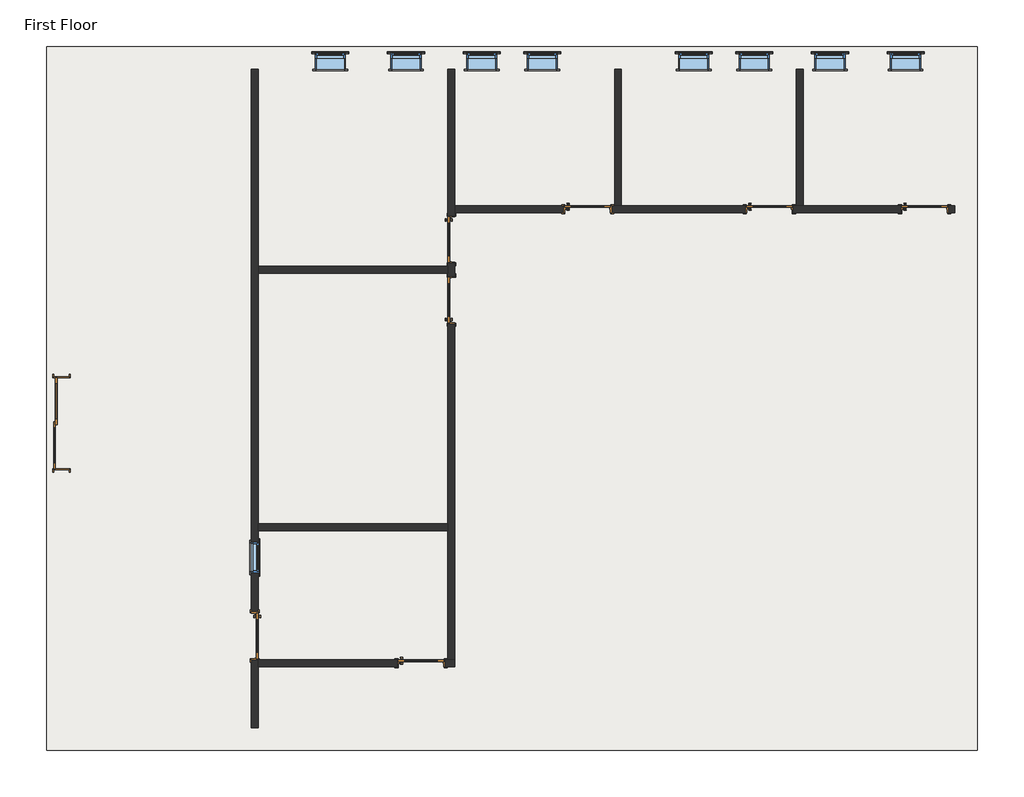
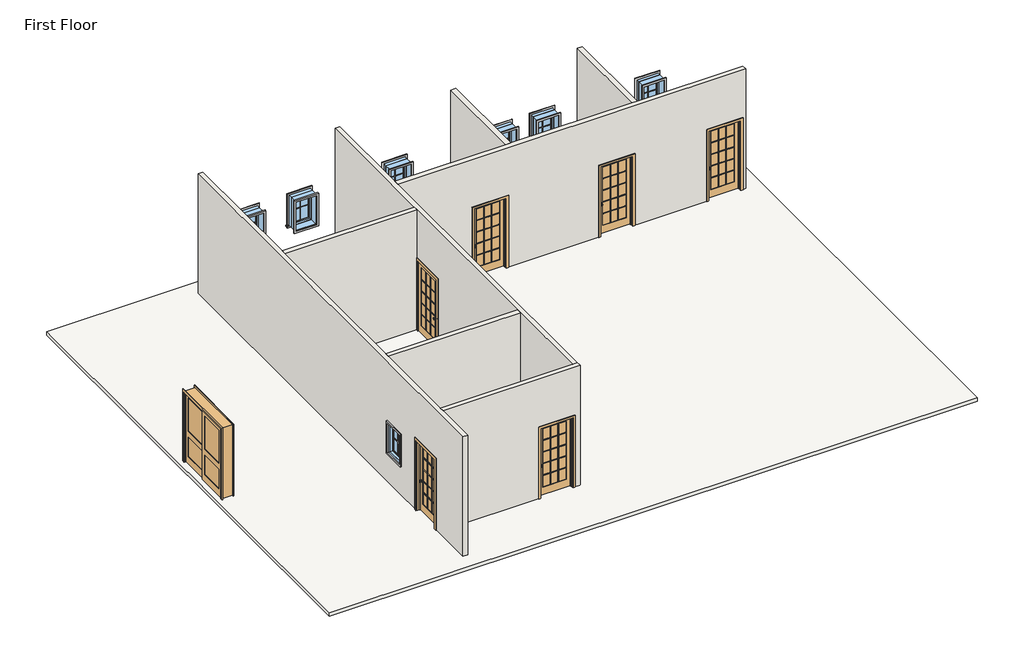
# One storey: 27 proxies, 9 windows, 8 doors, 8 walls, 1 slab.
"""IFC4 building model written with IfcOpenShell, lengths in millimetres."""

from ifc_helpers import new_model, si_unit, frame, origin, place, context, project, spatial, polyline, outline, extrude, faceted_brep, transform, mapped, element, save
from components import muntin_pattern_2x2_muntin_pattern_2x2_cf4092f1, muntin_pattern_2x2_muntin_pattern_2x2_49143b38, trim_window_exterior_flat_with_sill_a665a915, trim_window_exterior_flat_with_sill_4c72db77, trim_window_interior_flat_picture_frame_d485c387, trim_window_interior_flat_picture_frame_dfd23ff3, door_956c32c9, door_918c180d, door_79dd3e86, window_d7bc73cd, window_8e02f281, window_2fd3c40a

model = new_model("IFC4")

# Units and contexts
model_context = context("Model", 3, world=origin())
ifc_project = project(units=[si_unit("LENGTHUNIT", "METRE", prefix="MILLI")], contexts=[model_context])

# Site, building, storey
site = spatial("IfcSite", under=ifc_project)
building = spatial("IfcBuilding", under=site)
storey = spatial("IfcBuildingStorey", under=building, Name="First Floor", Elevation=3657.6)

# Proxies
placement = place(None, origin())
muntin_pattern_2x2_muntin_pattern_2x2_shape = muntin_pattern_2x2_muntin_pattern_2x2_cf4092f1(model_context)
element("IfcBuildingElementProxy", 1, Name="Muntin Pattern_2x2 : Muntin Pattern_2x2", ObjectType="Muntin Pattern_2x2 : Muntin Pattern_2x2", at=placement, inside=storey, context=model_context, shape_type="MappedRepresentation", body=[
    mapped(muntin_pattern_2x2_muntin_pattern_2x2_shape, transform((-14168.6597136, 1858.8705992, 4641.85), x_axis=(0.0, -1.0, 0.0), y_axis=(1.0, 0.0, 0.0), z_axis=(0.0, 0.0, 1.0))),
])
element("IfcBuildingElementProxy", 2, Name="Muntin Pattern_2x2 : Muntin Pattern_2x2", ObjectType="Muntin Pattern_2x2 : Muntin Pattern_2x2", at=placement, inside=storey, context=model_context, shape_type="MappedRepresentation", body=[
    mapped(muntin_pattern_2x2_muntin_pattern_2x2_shape, transform((-1122.5847136, 11991.8830992, 4641.85), x_axis=(1.0, 0.0, 0.0), y_axis=(0.0, 1.0, 0.0), z_axis=(0.0, 0.0, 1.0))),
])
element("IfcBuildingElementProxy", 3, Name="Muntin Pattern_2x2 : Muntin Pattern_2x2", ObjectType="Muntin Pattern_2x2 : Muntin Pattern_2x2", at=placement, inside=storey, context=model_context, shape_type="MappedRepresentation", body=[
    mapped(muntin_pattern_2x2_muntin_pattern_2x2_shape, transform((-2646.5847136, 11991.8830992, 4641.85), x_axis=(1.0, 0.0, 0.0), y_axis=(0.0, 1.0, 0.0), z_axis=(0.0, 0.0, 1.0))),
])
element("IfcBuildingElementProxy", 4, Name="Muntin Pattern_2x2 : Muntin Pattern_2x2", ObjectType="Muntin Pattern_2x2 : Muntin Pattern_2x2", at=placement, inside=storey, context=model_context, shape_type="MappedRepresentation", body=[
    mapped(muntin_pattern_2x2_muntin_pattern_2x2_shape, transform((-4170.5847136, 11991.8830992, 4641.85), x_axis=(1.0, 0.0, 0.0), y_axis=(0.0, 1.0, 0.0), z_axis=(0.0, 0.0, 1.0))),
])
element("IfcBuildingElementProxy", 5, Name="Muntin Pattern_2x2 : Muntin Pattern_2x2", ObjectType="Muntin Pattern_2x2 : Muntin Pattern_2x2", at=placement, inside=storey, context=model_context, shape_type="MappedRepresentation", body=[
    mapped(muntin_pattern_2x2_muntin_pattern_2x2_shape, transform((-5389.7847136, 11991.8830992, 4641.85), x_axis=(1.0, 0.0, 0.0), y_axis=(0.0, 1.0, 0.0), z_axis=(0.0, 0.0, 1.0))),
])
muntin_pattern_2x2_muntin_pattern_2x2_2_shape = muntin_pattern_2x2_muntin_pattern_2x2_49143b38(model_context)
element("IfcBuildingElementProxy", 6, Name="Muntin Pattern_2x2 : Muntin Pattern_2x2", ObjectType="Muntin Pattern_2x2 : Muntin Pattern_2x2", at=placement, inside=storey, context=model_context, shape_type="MappedRepresentation", body=[
    mapped(muntin_pattern_2x2_muntin_pattern_2x2_2_shape, transform((-12704.9847136, 11991.8830992, 4641.85), x_axis=(-1.0, 0.0, 0.0), y_axis=(0.0, -1.0, 0.0), z_axis=(0.0, 0.0, 1.0))),
])
element("IfcBuildingElementProxy", 7, Name="Muntin Pattern_2x2 : Muntin Pattern_2x2", ObjectType="Muntin Pattern_2x2 : Muntin Pattern_2x2", at=placement, inside=storey, context=model_context, shape_type="MappedRepresentation", body=[
    mapped(muntin_pattern_2x2_muntin_pattern_2x2_2_shape, transform((-11180.9847136, 11991.8830992, 4641.85), x_axis=(-1.0, 0.0, 0.0), y_axis=(0.0, -1.0, 0.0), z_axis=(0.0, 0.0, 1.0))),
])
element("IfcBuildingElementProxy", 8, Name="Muntin Pattern_2x2 : Muntin Pattern_2x2", ObjectType="Muntin Pattern_2x2 : Muntin Pattern_2x2", at=placement, inside=storey, context=model_context, shape_type="MappedRepresentation", body=[
    mapped(muntin_pattern_2x2_muntin_pattern_2x2_2_shape, transform((-9656.9847136, 11991.8830992, 4641.85), x_axis=(-1.0, 0.0, 0.0), y_axis=(0.0, -1.0, 0.0), z_axis=(0.0, 0.0, 1.0))),
])
element("IfcBuildingElementProxy", 9, Name="Muntin Pattern_2x2 : Muntin Pattern_2x2", ObjectType="Muntin Pattern_2x2 : Muntin Pattern_2x2", at=placement, inside=storey, context=model_context, shape_type="MappedRepresentation", body=[
    mapped(muntin_pattern_2x2_muntin_pattern_2x2_2_shape, transform((-8437.7847136, 11991.8830992, 4641.85), x_axis=(-1.0, 0.0, 0.0), y_axis=(0.0, -1.0, 0.0), z_axis=(0.0, 0.0, 1.0))),
])
trim_window_exterior_flat_with_sill_shape = trim_window_exterior_flat_with_sill_a665a915(model_context)
element("IfcBuildingElementProxy", 10, Name="Trim-Window-Exterior-Flat : with Sill", ObjectType="Trim-Window-Exterior-Flat : with Sill", at=placement, inside=storey, context=model_context, shape_type="MappedRepresentation", body=[
    mapped(trim_window_exterior_flat_with_sill_shape, transform((-14159.1347136, 1858.8705992, 5486.4), x_axis=(0.0, 1.0, 0.0), y_axis=(0.0, 0.0, 1.0), z_axis=(1.0, 0.0, 0.0))),
])
element("IfcBuildingElementProxy", 11, Name="Trim-Window-Exterior-Flat : with Sill", ObjectType="Trim-Window-Exterior-Flat : with Sill", at=placement, inside=storey, context=model_context, shape_type="MappedRepresentation", body=[
    mapped(trim_window_exterior_flat_with_sill_shape, transform((-1122.5847136, 12001.4080992, 5486.4), x_axis=(-1.0, 0.0, 0.0), y_axis=(0.0, 0.0, 1.0), z_axis=(0.0, 1.0, 0.0))),
])
element("IfcBuildingElementProxy", 12, Name="Trim-Window-Exterior-Flat : with Sill", ObjectType="Trim-Window-Exterior-Flat : with Sill", at=placement, inside=storey, context=model_context, shape_type="MappedRepresentation", body=[
    mapped(trim_window_exterior_flat_with_sill_shape, transform((-2646.5847136, 12001.4080992, 5486.4), x_axis=(-1.0, 0.0, 0.0), y_axis=(0.0, 0.0, 1.0), z_axis=(0.0, 1.0, 0.0))),
])
element("IfcBuildingElementProxy", 13, Name="Trim-Window-Exterior-Flat : with Sill", ObjectType="Trim-Window-Exterior-Flat : with Sill", at=placement, inside=storey, context=model_context, shape_type="MappedRepresentation", body=[
    mapped(trim_window_exterior_flat_with_sill_shape, transform((-4170.5847136, 12001.4080992, 5486.4), x_axis=(-1.0, 0.0, 0.0), y_axis=(0.0, 0.0, 1.0), z_axis=(0.0, 1.0, 0.0))),
])
element("IfcBuildingElementProxy", 14, Name="Trim-Window-Exterior-Flat : with Sill", ObjectType="Trim-Window-Exterior-Flat : with Sill", at=placement, inside=storey, context=model_context, shape_type="MappedRepresentation", body=[
    mapped(trim_window_exterior_flat_with_sill_shape, transform((-5389.7847136, 12001.4080992, 5486.4), x_axis=(-1.0, 0.0, 0.0), y_axis=(0.0, 0.0, 1.0), z_axis=(0.0, 1.0, 0.0))),
])
trim_window_exterior_flat_with_sill_2_shape = trim_window_exterior_flat_with_sill_4c72db77(model_context)
element("IfcBuildingElementProxy", 15, Name="Trim-Window-Exterior-Flat : with Sill", ObjectType="Trim-Window-Exterior-Flat : with Sill", at=placement, inside=storey, context=model_context, shape_type="MappedRepresentation", body=[
    mapped(trim_window_exterior_flat_with_sill_2_shape, transform((-12704.9847136, 12001.4080992, 5486.4), x_axis=(1.0, 0.0, 0.0), y_axis=(0.0, 0.0, -1.0), z_axis=(0.0, 1.0, 0.0))),
])
element("IfcBuildingElementProxy", 16, Name="Trim-Window-Exterior-Flat : with Sill", ObjectType="Trim-Window-Exterior-Flat : with Sill", at=placement, inside=storey, context=model_context, shape_type="MappedRepresentation", body=[
    mapped(trim_window_exterior_flat_with_sill_2_shape, transform((-11180.9847136, 12001.4080992, 5486.4), x_axis=(1.0, 0.0, 0.0), y_axis=(0.0, 0.0, -1.0), z_axis=(0.0, 1.0, 0.0))),
])
element("IfcBuildingElementProxy", 17, Name="Trim-Window-Exterior-Flat : with Sill", ObjectType="Trim-Window-Exterior-Flat : with Sill", at=placement, inside=storey, context=model_context, shape_type="MappedRepresentation", body=[
    mapped(trim_window_exterior_flat_with_sill_2_shape, transform((-9656.9847136, 12001.4080992, 5486.4), x_axis=(1.0, 0.0, 0.0), y_axis=(0.0, 0.0, -1.0), z_axis=(0.0, 1.0, 0.0))),
])
element("IfcBuildingElementProxy", 18, Name="Trim-Window-Exterior-Flat : with Sill", ObjectType="Trim-Window-Exterior-Flat : with Sill", at=placement, inside=storey, context=model_context, shape_type="MappedRepresentation", body=[
    mapped(trim_window_exterior_flat_with_sill_2_shape, transform((-8437.7847136, 12001.4080992, 5486.4), x_axis=(1.0, 0.0, 0.0), y_axis=(0.0, 0.0, -1.0), z_axis=(0.0, 1.0, 0.0))),
])
trim_window_interior_flat_picture_frame_shape = trim_window_interior_flat_picture_frame_d485c387(model_context)
element("IfcBuildingElementProxy", 19, Name="Trim-Window-Interior-Flat : Picture Frame", ObjectType="Trim-Window-Interior-Flat : Picture Frame", at=placement, inside=storey, context=model_context, shape_type="MappedRepresentation", body=[
    mapped(trim_window_interior_flat_picture_frame_shape, transform((-14298.8347136, 1858.8705992, 5486.4), x_axis=(0.0, -1.0, 0.0), y_axis=(0.0, 0.0, 1.0), z_axis=(-1.0, 0.0, 0.0))),
])
element("IfcBuildingElementProxy", 20, Name="Trim-Window-Interior-Flat : Picture Frame", ObjectType="Trim-Window-Interior-Flat : Picture Frame", at=placement, inside=storey, context=model_context, shape_type="MappedRepresentation", body=[
    mapped(trim_window_interior_flat_picture_frame_shape, transform((-1122.5847136, 11690.2580992, 5486.4), x_axis=(1.0, 0.0, 0.0), y_axis=(0.0, 0.0, 1.0), z_axis=(0.0, -1.0, 0.0))),
])
element("IfcBuildingElementProxy", 21, Name="Trim-Window-Interior-Flat : Picture Frame", ObjectType="Trim-Window-Interior-Flat : Picture Frame", at=placement, inside=storey, context=model_context, shape_type="MappedRepresentation", body=[
    mapped(trim_window_interior_flat_picture_frame_shape, transform((-2646.5847136, 11690.2580992, 5486.4), x_axis=(1.0, 0.0, 0.0), y_axis=(0.0, 0.0, 1.0), z_axis=(0.0, -1.0, 0.0))),
])
element("IfcBuildingElementProxy", 22, Name="Trim-Window-Interior-Flat : Picture Frame", ObjectType="Trim-Window-Interior-Flat : Picture Frame", at=placement, inside=storey, context=model_context, shape_type="MappedRepresentation", body=[
    mapped(trim_window_interior_flat_picture_frame_shape, transform((-4170.5847136, 11690.2580992, 5486.4), x_axis=(1.0, 0.0, 0.0), y_axis=(0.0, 0.0, 1.0), z_axis=(0.0, -1.0, 0.0))),
])
element("IfcBuildingElementProxy", 23, Name="Trim-Window-Interior-Flat : Picture Frame", ObjectType="Trim-Window-Interior-Flat : Picture Frame", at=placement, inside=storey, context=model_context, shape_type="MappedRepresentation", body=[
    mapped(trim_window_interior_flat_picture_frame_shape, transform((-5389.7847136, 11690.2580992, 5486.4), x_axis=(1.0, 0.0, 0.0), y_axis=(0.0, 0.0, 1.0), z_axis=(0.0, -1.0, 0.0))),
])
trim_window_interior_flat_picture_frame_2_shape = trim_window_interior_flat_picture_frame_dfd23ff3(model_context)
element("IfcBuildingElementProxy", 24, Name="Trim-Window-Interior-Flat : Picture Frame", ObjectType="Trim-Window-Interior-Flat : Picture Frame", at=placement, inside=storey, context=model_context, shape_type="MappedRepresentation", body=[
    mapped(trim_window_interior_flat_picture_frame_2_shape, transform((-12704.9847136, 11690.2580992, 5486.4), x_axis=(-1.0, 0.0, 0.0), y_axis=(0.0, 0.0, -1.0), z_axis=(0.0, -1.0, 0.0))),
])
element("IfcBuildingElementProxy", 25, Name="Trim-Window-Interior-Flat : Picture Frame", ObjectType="Trim-Window-Interior-Flat : Picture Frame", at=placement, inside=storey, context=model_context, shape_type="MappedRepresentation", body=[
    mapped(trim_window_interior_flat_picture_frame_2_shape, transform((-11180.9847136, 11690.2580992, 5486.4), x_axis=(-1.0, 0.0, 0.0), y_axis=(0.0, 0.0, -1.0), z_axis=(0.0, -1.0, 0.0))),
])
element("IfcBuildingElementProxy", 26, Name="Trim-Window-Interior-Flat : Picture Frame", ObjectType="Trim-Window-Interior-Flat : Picture Frame", at=placement, inside=storey, context=model_context, shape_type="MappedRepresentation", body=[
    mapped(trim_window_interior_flat_picture_frame_2_shape, transform((-9656.9847136, 11690.2580992, 5486.4), x_axis=(-1.0, 0.0, 0.0), y_axis=(0.0, 0.0, -1.0), z_axis=(0.0, -1.0, 0.0))),
])
element("IfcBuildingElementProxy", 27, Name="Trim-Window-Interior-Flat : Picture Frame", ObjectType="Trim-Window-Interior-Flat : Picture Frame", at=placement, inside=storey, context=model_context, shape_type="MappedRepresentation", body=[
    mapped(trim_window_interior_flat_picture_frame_2_shape, transform((-8437.7847136, 11690.2580992, 5486.4), x_axis=(-1.0, 0.0, 0.0), y_axis=(0.0, 0.0, -1.0), z_axis=(0.0, -1.0, 0.0))),
])

# Doors
door_shape = door_956c32c9(model_context)
element("IfcDoor", 28, ObjectType="Door-Interior-Double-Sliding-2_Panel-Wood : 72\" x 84\"", at=placement, inside=storey, context=model_context, shape_type="MappedRepresentation", body=[
    mapped(door_shape, transform((-18123.1222136, 4559.7577587, 3657.6), x_axis=(0.0, 1.0, 0.0), y_axis=(-1.0, 0.0, 0.0), z_axis=(0.0, 0.0, 1.0))),
])
door_2_shape = door_918c180d(model_context)
element("IfcDoor", 29, ObjectType="Door-Interior-Single-Full Glass-Wood : 36\" x 84\"", at=placement, inside=storey, context=model_context, shape_type="MappedRepresentation", body=[
    mapped(door_2_shape, transform((-14225.8097136, 277.7205992, 3657.6), x_axis=(0.0, -1.0, 0.0), y_axis=(1.0, 0.0, 0.0), z_axis=(0.0, 0.0, 1.0))),
])
element("IfcDoor", 30, ObjectType="Door-Interior-Single-Full Glass-Wood : 36\" x 84\"", at=placement, inside=storey, context=model_context, shape_type="MappedRepresentation", body=[
    mapped(door_2_shape, transform((-10269.7597136, 7040.4705992, 3657.6), x_axis=(0.0, 1.0, 0.0), y_axis=(-1.0, 0.0, 0.0), z_axis=(0.0, 0.0, 1.0))),
])
element("IfcDoor", 31, ObjectType="Door-Interior-Single-Full Glass-Wood : 36\" x 84\"", at=placement, inside=storey, context=model_context, shape_type="MappedRepresentation", body=[
    mapped(door_2_shape, transform((-7523.3847136, 8872.4455992, 3657.6), x_axis=(1.0, 0.0, 0.0), y_axis=(0.0, 1.0, 0.0), z_axis=(0.0, 0.0, 1.0))),
])
element("IfcDoor", 32, ObjectType="Door-Interior-Single-Full Glass-Wood : 36\" x 84\"", at=placement, inside=storey, context=model_context, shape_type="MappedRepresentation", body=[
    mapped(door_2_shape, transform((-3865.7847136, 8872.4455992, 3657.6), x_axis=(1.0, 0.0, 0.0), y_axis=(0.0, 1.0, 0.0), z_axis=(0.0, 0.0, 1.0))),
])
element("IfcDoor", 33, ObjectType="Door-Interior-Single-Full Glass-Wood : 36\" x 84\"", at=placement, inside=storey, context=model_context, shape_type="MappedRepresentation", body=[
    mapped(door_2_shape, transform((-739.9972136, 8872.4455992, 3657.6), x_axis=(1.0, 0.0, 0.0), y_axis=(0.0, 1.0, 0.0), z_axis=(0.0, 0.0, 1.0))),
])
element("IfcDoor", 34, ObjectType="Door-Interior-Single-Full Glass-Wood : 36\" x 84\"", at=placement, inside=storey, context=model_context, shape_type="MappedRepresentation", body=[
    mapped(door_2_shape, transform((-10876.1847136, -271.5544008, 3657.6), x_axis=(1.0, 0.0, 0.0), y_axis=(0.0, 1.0, 0.0), z_axis=(0.0, 0.0, 1.0))),
])
door_3_shape = door_79dd3e86(model_context)
element("IfcDoor", 35, ObjectType="Door-Interior-Single-Full Glass-Wood : 36\" x 84\"", at=placement, inside=storey, context=model_context, shape_type="MappedRepresentation", body=[
    mapped(door_3_shape, transform((-10269.7597136, 8259.6705992, 3657.6), x_axis=(0.0, -1.0, 0.0), y_axis=(1.0, 0.0, 0.0), z_axis=(0.0, 0.0, 1.0))),
])

# Slab
element("IfcSlab", 36, ObjectType="LW Concrete on Metal Deck", at=placement, inside=storey, context=model_context, shape_type="SweptSolid", body=[
    extrude(outline(polyline([(323.6277864, 12144.2830992), (323.6277864, -2025.7419008), (-18418.3972136, -2025.7419008), (-18418.3972136, 12144.2830992), (323.6277864, 12144.2830992)])), frame((0.0, 0.0, 3552.825), z_axis=(0.0, 0.0, 1.0), x_axis=(1.0, 0.0, 0.0)), (0.0, 0.0, 1.0), 104.775),
])

# Walls
element("IfcWall", 37, ObjectType="Interior - 5 1/2\" Partition (1-hr)", at=placement, inside=storey, context=model_context, shape_type="Brep", body=[
    faceted_brep([(-14298.8347136, -1571.7169008, 7315.2), (-14298.8347136, 11690.2580992, 7315.2), (-14298.8347136, 11690.2580992, 3657.6), (-14298.8347136, 760.3205992, 3657.6), (-14298.8347136, 760.3205992, 5816.6), (-14298.8347136, -204.8794008, 5816.6), (-14298.8347136, -204.8794008, 3657.6), (-14298.8347136, -1571.7169008, 3657.6), (-14298.8347136, 1554.0705992, 5486.4), (-14298.8347136, 1554.0705992, 4572.0), (-14298.8347136, 2163.6705992, 4572.0), (-14298.8347136, 2163.6705992, 5486.4), (-14159.1347136, 11690.2580992, 7315.2), (-14159.1347136, 7719.9205992, 7315.2), (-14159.1347136, 7580.2205992, 7315.2), (-14159.1347136, 2538.3205992, 7315.2), (-14159.1347136, 2398.6205992, 7315.2), (-14159.1347136, -204.8794008, 7315.2), (-14159.1347136, -344.5794008, 7315.2), (-14159.1347136, -1571.7169008, 7315.2), (-14159.1347136, -1571.7169008, 3657.6), (-14159.1347136, -344.5794008, 3657.6), (-14159.1347136, -204.8794008, 3657.6), (-14159.1347136, -204.8794008, 5816.6), (-14159.1347136, 760.3205992, 5816.6), (-14159.1347136, 760.3205992, 3657.6), (-14159.1347136, 2398.6205992, 3657.6), (-14159.1347136, 2538.3205992, 3657.6), (-14159.1347136, 7580.2205992, 3657.6), (-14159.1347136, 7719.9205992, 3657.6), (-14159.1347136, 11690.2580992, 3657.6), (-14159.1347136, 1554.0705992, 5486.4), (-14159.1347136, 2163.6705992, 5486.4), (-14159.1347136, 2163.6705992, 4572.0), (-14159.1347136, 1554.0705992, 4572.0)], [[[0, 1, 2, 3, 4, 5, 6, 7], [8, 9, 10, 11]], [[12, 13, 14, 15, 16, 17, 18, 19, 20, 21, 22, 23, 24, 25, 26, 27, 28, 29, 30], [31, 32, 33, 34]], [[2, 30, 29, 28, 27, 26, 25, 3]], [[20, 7, 6, 22, 21]], [[1, 0, 19, 18, 17, 16, 15, 14, 13, 12]], [[5, 23, 22, 6]], [[23, 5, 4, 24]], [[24, 4, 3, 25]], [[9, 8, 31, 34]], [[10, 9, 34, 33]], [[11, 10, 33, 32]], [[8, 11, 32, 31]], [[2, 1, 12, 30]], [[0, 7, 20, 19]]]),
])
element("IfcWall", 38, ObjectType="Interior - 5 1/2\" Partition (1-hr)", at=placement, inside=storey, context=model_context, shape_type="Brep", body=[
    faceted_brep([(-10196.7347136, -344.5794008, 7315.2), (-14159.1347136, -344.5794008, 7315.2), (-14159.1347136, -344.5794008, 3657.6), (-11358.7847136, -344.5794008, 3657.6), (-11358.7847136, -344.5794008, 5816.6), (-10393.5847136, -344.5794008, 5816.6), (-10393.5847136, -344.5794008, 3657.6), (-10196.7347136, -344.5794008, 3657.6), (-14159.1347136, -204.8794008, 7315.2), (-10336.4347136, -204.8794008, 7315.2), (-10196.7347136, -204.8794008, 7315.2), (-10196.7347136, -204.8794008, 3657.6), (-10336.4347136, -204.8794008, 3657.6), (-10393.5847136, -204.8794008, 3657.6), (-10393.5847136, -204.8794008, 5816.6), (-11358.7847136, -204.8794008, 5816.6), (-11358.7847136, -204.8794008, 3657.6), (-14159.1347136, -204.8794008, 3657.6), (-14159.1347136, -204.8794008, 5816.6)], [[[0, 1, 2, 3, 4, 5, 6, 7]], [[8, 9, 10, 11, 12, 13, 14, 15, 16, 17, 18]], [[2, 17, 16, 3]], [[11, 7, 6, 13, 12]], [[1, 0, 10, 9, 8]], [[2, 1, 8, 18, 17]], [[0, 7, 11, 10]], [[5, 14, 13, 6]], [[14, 5, 4, 15]], [[15, 4, 3, 16]]]),
])
element("IfcWall", 39, ObjectType="Interior - 5 1/2\" Partition (1-hr)", at=placement, inside=storey, context=model_context, shape_type="Brep", body=[
    faceted_brep([(-10196.7347136, 11690.2580992, 7315.2), (-10196.7347136, 8939.1205992, 7315.2), (-10196.7347136, 8799.4205992, 7315.2), (-10196.7347136, -204.8794008, 7315.2), (-10196.7347136, -204.8794008, 3657.6), (-10196.7347136, 6557.8705992, 3657.6), (-10196.7347136, 6557.8705992, 5816.6), (-10196.7347136, 7523.0705992, 5816.6), (-10196.7347136, 7523.0705992, 3657.6), (-10196.7347136, 7777.0705992, 3657.6), (-10196.7347136, 7777.0705992, 5816.6), (-10196.7347136, 8742.2705992, 5816.6), (-10196.7347136, 8742.2705992, 3657.6), (-10196.7347136, 8799.4205992, 3657.6), (-10196.7347136, 8939.1205992, 3657.6), (-10196.7347136, 11690.2580992, 3657.6), (-10336.4347136, -204.8794008, 7315.2), (-10336.4347136, 2398.6205992, 7315.2), (-10336.4347136, 2538.3205992, 7315.2), (-10336.4347136, 7580.2205992, 7315.2), (-10336.4347136, 7719.9205992, 7315.2), (-10336.4347136, 11690.2580992, 7315.2), (-10336.4347136, 11690.2580992, 3657.6), (-10336.4347136, 8742.2705992, 3657.6), (-10336.4347136, 8742.2705992, 5816.6), (-10336.4347136, 7777.0705992, 5816.6), (-10336.4347136, 7777.0705992, 3657.6), (-10336.4347136, 7719.9205992, 3657.6), (-10336.4347136, 7580.2205992, 3657.6), (-10336.4347136, 7523.0705992, 3657.6), (-10336.4347136, 7523.0705992, 5816.6), (-10336.4347136, 6557.8705992, 5816.6), (-10336.4347136, 6557.8705992, 3657.6), (-10336.4347136, 2538.3205992, 3657.6), (-10336.4347136, 2398.6205992, 3657.6), (-10336.4347136, -204.8794008, 3657.6)], [[[0, 1, 2, 3, 4, 5, 6, 7, 8, 9, 10, 11, 12, 13, 14, 15]], [[16, 17, 18, 19, 20, 21, 22, 23, 24, 25, 26, 27, 28, 29, 30, 31, 32, 33, 34, 35]], [[4, 35, 34, 33, 32, 5]], [[8, 29, 28, 27, 26, 9]], [[22, 15, 14, 13, 12, 23]], [[3, 2, 1, 0, 21, 20, 19, 18, 17, 16]], [[4, 3, 16, 35]], [[7, 30, 29, 8]], [[30, 7, 6, 31]], [[31, 6, 5, 32]], [[25, 10, 9, 26]], [[10, 25, 24, 11]], [[11, 24, 23, 12]], [[0, 15, 22, 21]]]),
])
element("IfcWall", 40, ObjectType="Interior - 5 1/2\" Partition (1-hr)", at=placement, inside=storey, context=model_context, shape_type="Brep", body=[
    faceted_brep([(-10196.7347136, 8939.1205992, 7315.2), (-6983.6347136, 8939.1205992, 7315.2), (-6843.9347136, 8939.1205992, 7315.2), (-3326.0347136, 8939.1205992, 7315.2), (-3186.3347136, 8939.1205992, 7315.2), (-130.3972136, 8939.1205992, 7315.2), (-130.3972136, 8939.1205992, 3657.6), (-257.3972136, 8939.1205992, 3657.6), (-257.3972136, 8939.1205992, 5816.6), (-1222.5972136, 8939.1205992, 5816.6), (-1222.5972136, 8939.1205992, 3657.6), (-3186.3347136, 8939.1205992, 3657.6), (-3326.0347136, 8939.1205992, 3657.6), (-3383.1847136, 8939.1205992, 3657.6), (-3383.1847136, 8939.1205992, 5816.6), (-4348.3847136, 8939.1205992, 5816.6), (-4348.3847136, 8939.1205992, 3657.6), (-6843.9347136, 8939.1205992, 3657.6), (-6983.6347136, 8939.1205992, 3657.6), (-7040.7847136, 8939.1205992, 3657.6), (-7040.7847136, 8939.1205992, 5816.6), (-8005.9847136, 8939.1205992, 5816.6), (-8005.9847136, 8939.1205992, 3657.6), (-10196.7347136, 8939.1205992, 3657.6), (-130.3972136, 8799.4205992, 7315.2), (-10196.7347136, 8799.4205992, 7315.2), (-10196.7347136, 8799.4205992, 3657.6), (-8005.9847136, 8799.4205992, 3657.6), (-8005.9847136, 8799.4205992, 5816.6), (-7040.7847136, 8799.4205992, 5816.6), (-7040.7847136, 8799.4205992, 3657.6), (-4348.3847136, 8799.4205992, 3657.6), (-4348.3847136, 8799.4205992, 5816.6), (-3383.1847136, 8799.4205992, 5816.6), (-3383.1847136, 8799.4205992, 3657.6), (-1222.5972136, 8799.4205992, 3657.6), (-1222.5972136, 8799.4205992, 5816.6), (-257.3972136, 8799.4205992, 5816.6), (-257.3972136, 8799.4205992, 3657.6), (-130.3972136, 8799.4205992, 3657.6)], [[[0, 1, 2, 3, 4, 5, 6, 7, 8, 9, 10, 11, 12, 13, 14, 15, 16, 17, 18, 19, 20, 21, 22, 23]], [[24, 25, 26, 27, 28, 29, 30, 31, 32, 33, 34, 35, 36, 37, 38, 39]], [[26, 23, 22, 27]], [[30, 19, 18, 17, 16, 31]], [[34, 13, 12, 11, 10, 35]], [[6, 39, 38, 7]], [[5, 4, 3, 2, 1, 0, 25, 24]], [[0, 23, 26, 25]], [[29, 20, 19, 30]], [[20, 29, 28, 21]], [[21, 28, 27, 22]], [[33, 14, 13, 34]], [[14, 33, 32, 15]], [[15, 32, 31, 16]], [[37, 8, 7, 38]], [[8, 37, 36, 9]], [[9, 36, 35, 10]], [[6, 5, 24, 39]]]),
])
element("IfcWall", 41, ObjectType="Interior - 5 1/2\" Partition (1-hr)", at=placement, inside=storey, context=model_context, shape_type="SweptSolid", body=[
    extrude(outline(polyline([(-10336.4347136, 7580.2205992), (-14159.1347136, 7580.2205992), (-14159.1347136, 7719.9205992), (-10336.4347136, 7719.9205992), (-10336.4347136, 7580.2205992)])), frame((0.0, 0.0, 3657.6), z_axis=(0.0, 0.0, 1.0), x_axis=(1.0, 0.0, 0.0)), (0.0, 0.0, 1.0), 3657.6),
])
element("IfcWall", 42, ObjectType="Interior - 5 1/2\" Partition (1-hr)", at=placement, inside=storey, context=model_context, shape_type="SweptSolid", body=[
    extrude(outline(polyline([(-10336.4347136, 2398.6205992), (-14159.1347136, 2398.6205992), (-14159.1347136, 2538.3205992), (-10336.4347136, 2538.3205992), (-10336.4347136, 2398.6205992)])), frame((0.0, 0.0, 3657.6), z_axis=(0.0, 0.0, 1.0), x_axis=(1.0, 0.0, 0.0)), (0.0, 0.0, 1.0), 3657.6),
])
element("IfcWall", 43, ObjectType="Interior - 5 1/2\" Partition (1-hr)", at=placement, inside=storey, context=model_context, shape_type="SweptSolid", body=[
    extrude(outline(polyline([(-3326.0347136, 8939.1205992), (-3326.0347136, 11690.2580992), (-3186.3347136, 11690.2580992), (-3186.3347136, 8939.1205992), (-3326.0347136, 8939.1205992)])), frame((0.0, 0.0, 3657.6), z_axis=(0.0, 0.0, 1.0), x_axis=(1.0, 0.0, 0.0)), (0.0, 0.0, 1.0), 3657.6),
])
element("IfcWall", 44, ObjectType="Interior - 5 1/2\" Partition (1-hr)", at=placement, inside=storey, context=model_context, shape_type="SweptSolid", body=[
    extrude(outline(polyline([(-6983.6347136, 8939.1205992), (-6983.6347136, 11690.2580992), (-6843.9347136, 11690.2580992), (-6843.9347136, 8939.1205992), (-6983.6347136, 8939.1205992)])), frame((0.0, 0.0, 3657.6), z_axis=(0.0, 0.0, 1.0), x_axis=(1.0, 0.0, 0.0)), (0.0, 0.0, 1.0), 3657.6),
])

# Windows
window_shape = window_d7bc73cd(model_context)
element("IfcWindow", 45, ObjectType="Window-Awning-Single : 24\" x 36\"", at=placement, inside=storey, context=model_context, shape_type="MappedRepresentation", body=[
    mapped(window_shape, transform((-14228.9847136, 1858.8705992, 3657.6), x_axis=(0.0, -1.0, 0.0), y_axis=(1.0, 0.0, 0.0), z_axis=(0.0, 0.0, 1.0))),
])
window_2_shape = window_8e02f281(model_context)
element("IfcWindow", 46, ObjectType="Window-Awning-Single : 24\" x 36\"", at=placement, inside=storey, context=model_context, shape_type="MappedRepresentation", body=[
    mapped(window_2_shape, transform((-12704.9847136, 11845.8330992, 3657.6), x_axis=(-1.0, 0.0, 0.0), y_axis=(0.0, -1.0, 0.0), z_axis=(0.0, 0.0, 1.0))),
])
element("IfcWindow", 47, ObjectType="Window-Awning-Single : 24\" x 36\"", at=placement, inside=storey, context=model_context, shape_type="MappedRepresentation", body=[
    mapped(window_2_shape, transform((-11180.9847136, 11845.8330992, 3657.6), x_axis=(-1.0, 0.0, 0.0), y_axis=(0.0, -1.0, 0.0), z_axis=(0.0, 0.0, 1.0))),
])
element("IfcWindow", 48, ObjectType="Window-Awning-Single : 24\" x 36\"", at=placement, inside=storey, context=model_context, shape_type="MappedRepresentation", body=[
    mapped(window_2_shape, transform((-9656.9847136, 11845.8330992, 3657.6), x_axis=(-1.0, 0.0, 0.0), y_axis=(0.0, -1.0, 0.0), z_axis=(0.0, 0.0, 1.0))),
])
element("IfcWindow", 49, ObjectType="Window-Awning-Single : 24\" x 36\"", at=placement, inside=storey, context=model_context, shape_type="MappedRepresentation", body=[
    mapped(window_2_shape, transform((-8437.7847136, 11845.8330992, 3657.6), x_axis=(-1.0, 0.0, 0.0), y_axis=(0.0, -1.0, 0.0), z_axis=(0.0, 0.0, 1.0))),
])
window_3_shape = window_2fd3c40a(model_context)
element("IfcWindow", 50, ObjectType="Window-Awning-Single : 24\" x 36\"", at=placement, inside=storey, context=model_context, shape_type="MappedRepresentation", body=[
    mapped(window_3_shape, transform((-1122.5847136, 11845.8330992, 3657.6), x_axis=(1.0, 0.0, 0.0), y_axis=(0.0, 1.0, 0.0), z_axis=(0.0, 0.0, 1.0))),
])
element("IfcWindow", 51, ObjectType="Window-Awning-Single : 24\" x 36\"", at=placement, inside=storey, context=model_context, shape_type="MappedRepresentation", body=[
    mapped(window_3_shape, transform((-2646.5847136, 11845.8330992, 3657.6), x_axis=(1.0, 0.0, 0.0), y_axis=(0.0, 1.0, 0.0), z_axis=(0.0, 0.0, 1.0))),
])
element("IfcWindow", 52, ObjectType="Window-Awning-Single : 24\" x 36\"", at=placement, inside=storey, context=model_context, shape_type="MappedRepresentation", body=[
    mapped(window_3_shape, transform((-4170.5847136, 11845.8330992, 3657.6), x_axis=(1.0, 0.0, 0.0), y_axis=(0.0, 1.0, 0.0), z_axis=(0.0, 0.0, 1.0))),
])
element("IfcWindow", 53, ObjectType="Window-Awning-Single : 24\" x 36\"", at=placement, inside=storey, context=model_context, shape_type="MappedRepresentation", body=[
    mapped(window_3_shape, transform((-5389.7847136, 11845.8330992, 3657.6), x_axis=(1.0, 0.0, 0.0), y_axis=(0.0, 1.0, 0.0), z_axis=(0.0, 0.0, 1.0))),
])

save(model, "model.ifc")
